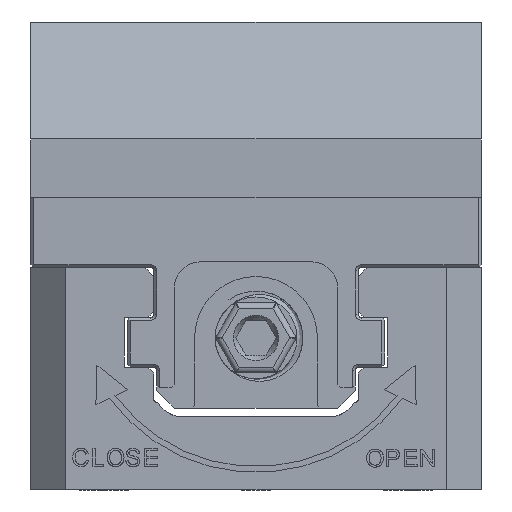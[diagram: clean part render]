
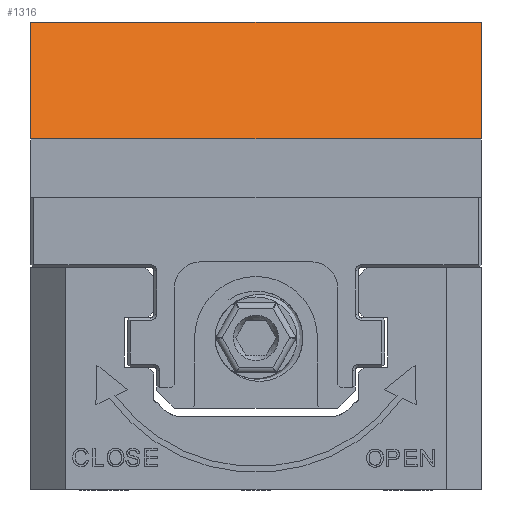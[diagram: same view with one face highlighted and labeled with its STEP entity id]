
A CAD part, front view. The second image highlights one B-rep face of the part: STEP entity #1316.
In plain terms, the highlighted planar face has unit normal (0, -0.707, 0.707).
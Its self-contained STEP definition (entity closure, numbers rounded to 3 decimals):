
#1316=ADVANCED_FACE('',(#2289),#1834,.F.);
#1834=PLANE('',#11401);
#2289=FACE_OUTER_BOUND('',#2954,.T.);
#2954=EDGE_LOOP('',(#6722,#6723,#6724,#6725));
#3798=LINE('',#17867,#4850);
#3803=LINE('',#17877,#4855);
#3808=LINE('',#17887,#4860);
#3810=LINE('',#17890,#4862);
#4850=VECTOR('',#13091,1.);
#4855=VECTOR('',#13098,1.);
#4860=VECTOR('',#13105,1.);
#4862=VECTOR('',#13109,1.);
#6722=ORIENTED_EDGE('',*,*,#9987,.T.);
#6723=ORIENTED_EDGE('',*,*,#9994,.T.);
#6724=ORIENTED_EDGE('',*,*,#9992,.T.);
#6725=ORIENTED_EDGE('',*,*,#9982,.T.);
#8801=VERTEX_POINT('',#17864);
#8802=VERTEX_POINT('',#17866);
#8806=VERTEX_POINT('',#17876);
#8807=VERTEX_POINT('',#17880);
#9982=EDGE_CURVE('',#8801,#8802,#3798,.T.);
#9987=EDGE_CURVE('',#8802,#8806,#3803,.T.);
#9992=EDGE_CURVE('',#8807,#8801,#3808,.T.);
#9994=EDGE_CURVE('',#8806,#8807,#3810,.T.);
#11401=AXIS2_PLACEMENT_3D('',#17987,#13192,#13193);
#13091=DIRECTION('',(1.,0.,0.));
#13098=DIRECTION('',(0.,0.707,0.707));
#13105=DIRECTION('',(0.,-0.707,-0.707));
#13109=DIRECTION('',(-1.,0.,0.));
#13192=DIRECTION('',(0.,0.707,-0.707));
#13193=DIRECTION('',(0.,-0.707,-0.707));
#17864=CARTESIAN_POINT('',(-61.,-2.,30.5));
#17866=CARTESIAN_POINT('',(16.,-2.,30.5));
#17867=CARTESIAN_POINT('',(39.,-2.,30.5));
#17876=CARTESIAN_POINT('',(16.,18.,50.5));
#17877=CARTESIAN_POINT('',(16.,15.,47.5));
#17880=CARTESIAN_POINT('',(-61.,18.,50.5));
#17887=CARTESIAN_POINT('',(-61.,15.,47.5));
#17890=CARTESIAN_POINT('',(39.,18.,50.5));
#17987=CARTESIAN_POINT('',(39.,18.,50.5));
